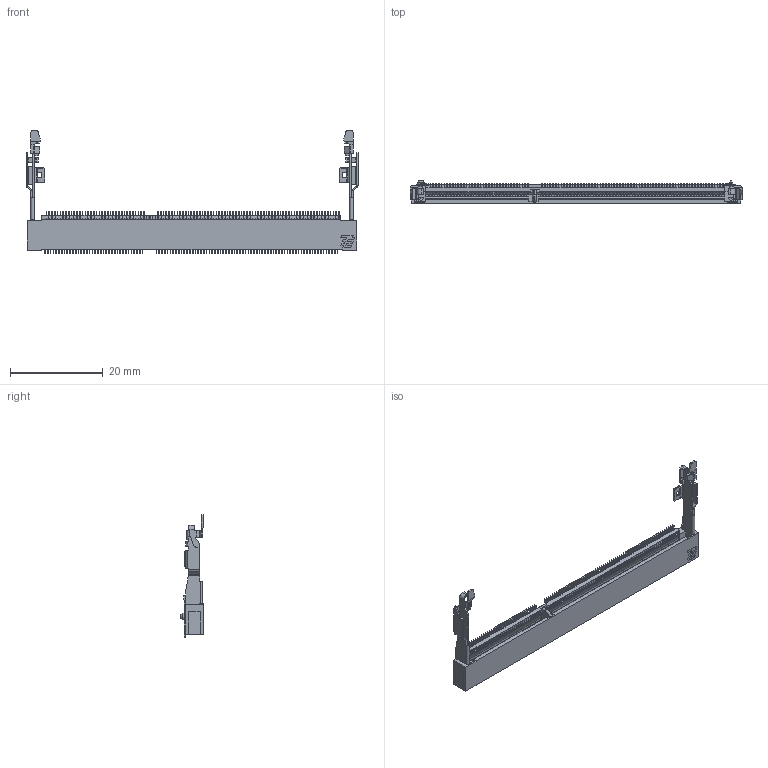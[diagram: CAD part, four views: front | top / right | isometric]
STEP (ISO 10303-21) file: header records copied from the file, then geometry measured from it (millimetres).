
FILE_DESCRIPTION((''),'2;1');
FILE_NAME('C-2-2013022-1','2010-04-22T',('workeradm'),('Tyco Electronics Ltd.'),'PRO/ENGINEER BY PARAMETRIC TECHNOLOGY CORPORATION, 2009300','PRO/ENGINEER BY PARAMETRIC TECHNOLOGY CORPORATION, 2009300','');
FILE_SCHEMA(('AUTOMOTIVE_DESIGN { 1 0 10303 214 1 1 1 1 }'));
Products named in the file (1): C-2-2013022-1
Bounding box: 71.5 x 4.8 x 26.45 mm (x, y, z)
Volume: 1745.3 mm3; surface area: 3177.5 mm2
Topology: 1 solids, 1 shells, 4076 faces, 11648 edges, 7673 vertices
Faces by surface type: plane 3269, cylinder 785, cone 20, torus 2
Entity records: 131600 total; most frequent: CARTESIAN_POINT 23429, ORIENTED_EDGE 23296, DIRECTION 21384, EDGE_CURVE 11648, VECTOR 10046, LINE 10046, VERTEX_POINT 7673, AXIS2_PLACEMENT_3D 5669
